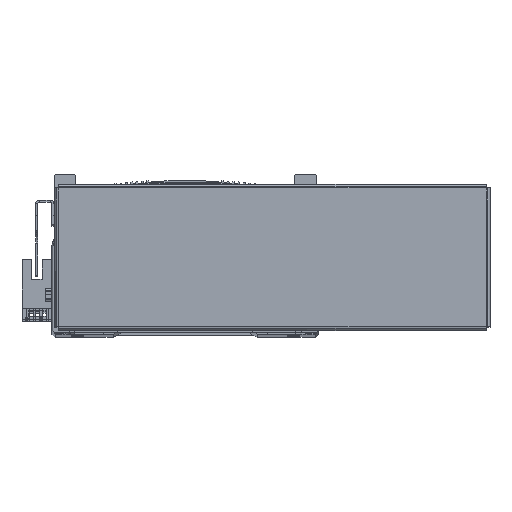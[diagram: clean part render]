
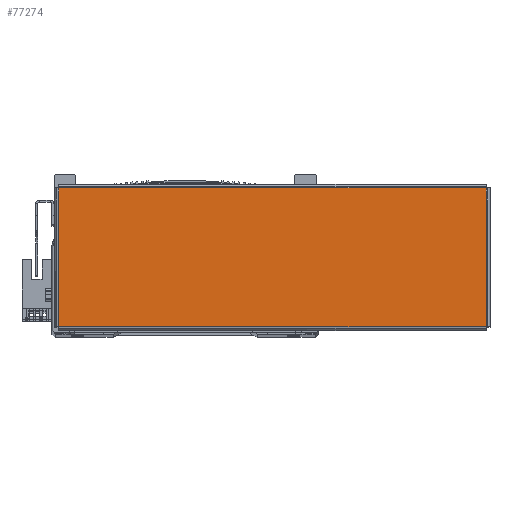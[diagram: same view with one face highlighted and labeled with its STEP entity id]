
A CAD part, top view. The second image highlights one B-rep face of the part: STEP entity #77274.
In plain terms, the highlighted planar face has unit normal (0, 0, 1) as drawn and (0, 0, -1) by its records, which use the part's own axes.
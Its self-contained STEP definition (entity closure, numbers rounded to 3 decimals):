
#11583 = DIRECTION ( 'NONE',  ( -1., 0., 0. ) ) ;
#11619 = CARTESIAN_POINT ( 'NONE',  ( 97.893, -31.763, -1. ) ) ;
#11633 = CARTESIAN_POINT ( 'NONE',  ( -97.893, 31.763, -1. ) ) ;
#11645 = DIRECTION ( 'NONE',  ( 0., -1., 0. ) ) ;
#11656 = DIRECTION ( 'NONE',  ( 1., 0., 0. ) ) ;
#11657 = CARTESIAN_POINT ( 'NONE',  ( 97.863, 31.793, -1. ) ) ;
#13936 = LINE ( 'NONE', #16980, #13939 ) ;
#13939 = VECTOR ( 'NONE', #16942, 1000. ) ;
#14041 = LINE ( 'NONE', #11619, #14042 ) ;
#14042 = VECTOR ( 'NONE', #11583, 1000. ) ;
#14056 = LINE ( 'NONE', #11657, #14108 ) ;
#14084 = VECTOR ( 'NONE', #11656, 1000. ) ;
#14087 = LINE ( 'NONE', #11633, #14084 ) ;
#14108 = VECTOR ( 'NONE', #11645, 1000. ) ;
#16942 = DIRECTION ( 'NONE',  ( 0., 1., 0. ) ) ;
#16980 = CARTESIAN_POINT ( 'NONE',  ( -97.863, -31.793, -1. ) ) ;
#29676 = VERTEX_POINT ( 'NONE', #30139 ) ;
#29786 = VERTEX_POINT ( 'NONE', #30230 ) ;
#29798 = VERTEX_POINT ( 'NONE', #30183 ) ;
#29817 = VERTEX_POINT ( 'NONE', #30207 ) ;
#30139 = CARTESIAN_POINT ( 'NONE',  ( 97.863, 31.763, -1. ) ) ;
#30183 = CARTESIAN_POINT ( 'NONE',  ( -97.863, -31.763, -1. ) ) ;
#30207 = CARTESIAN_POINT ( 'NONE',  ( 97.863, -31.763, -1. ) ) ;
#30230 = CARTESIAN_POINT ( 'NONE',  ( -97.863, 31.763, -1. ) ) ;
#43540 = AXIS2_PLACEMENT_3D ( 'NONE', #53821, #53822, #53891 ) ;
#53821 = CARTESIAN_POINT ( 'NONE',  ( 0., 0., -1. ) ) ;
#53822 = DIRECTION ( 'NONE',  ( 0., 0., 1. ) ) ;
#53891 = DIRECTION ( 'NONE',  ( 1., 0., 0. ) ) ;
#53896 = PLANE ( 'NONE',  #43540 ) ;
#57352 = FACE_OUTER_BOUND ( 'NONE', #74755, .T. ) ;
#59553 = EDGE_CURVE ( 'NONE', #29798, #29786, #13936, .T. ) ;
#59666 = EDGE_CURVE ( 'NONE', #29817, #29798, #14041, .T. ) ;
#59708 = EDGE_CURVE ( 'NONE', #29786, #29676, #14087, .T. ) ;
#59710 = EDGE_CURVE ( 'NONE', #29676, #29817, #14056, .T. ) ;
#69553 = ORIENTED_EDGE ( 'NONE', *, *, #59553, .T. ) ;
#69556 = ORIENTED_EDGE ( 'NONE', *, *, #59708, .T. ) ;
#69571 = ORIENTED_EDGE ( 'NONE', *, *, #59666, .T. ) ;
#69604 = ORIENTED_EDGE ( 'NONE', *, *, #59710, .T. ) ;
#74755 = EDGE_LOOP ( 'NONE', ( #69604, #69571, #69553, #69556 ) ) ;
#77274 = ADVANCED_FACE ( 'NONE', ( #57352 ), #53896, .F. ) ;
